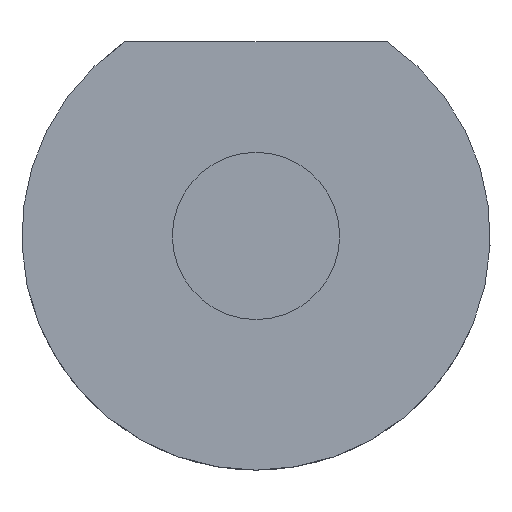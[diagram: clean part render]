
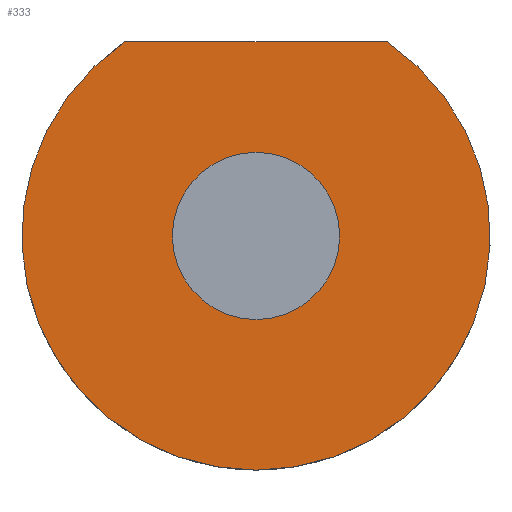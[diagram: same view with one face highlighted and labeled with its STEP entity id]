
A CAD part, front view. The second image highlights one B-rep face of the part: STEP entity #333.
In plain terms, the highlighted planar face has unit normal (0, -1, 0).
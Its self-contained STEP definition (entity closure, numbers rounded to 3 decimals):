
#42 = VERTEX_POINT('',#43);
#43 = CARTESIAN_POINT('',(1.96,-34.9,2.9));
#50 = CYLINDRICAL_SURFACE('',#51,3.5);
#51 = AXIS2_PLACEMENT_3D('',#52,#53,#54);
#52 = CARTESIAN_POINT('',(0.,-6.98,0.));
#53 = DIRECTION('',(0.,-1.,0.));
#54 = DIRECTION('',(1.,0.,0.));
#61 = PLANE('',#62);
#62 = AXIS2_PLACEMENT_3D('',#63,#64,#65);
#63 = CARTESIAN_POINT('',(-5.,-35.9,2.9));
#64 = DIRECTION('',(0.,0.,1.));
#65 = DIRECTION('',(1.,0.,-0.));
#72 = EDGE_CURVE('',#42,#73,#75,.T.);
#73 = VERTEX_POINT('',#74);
#74 = CARTESIAN_POINT('',(-1.96,-34.9,2.9));
#75 = SURFACE_CURVE('',#76,(#81,#88),.PCURVE_S1.);
#76 = CIRCLE('',#77,3.5);
#77 = AXIS2_PLACEMENT_3D('',#78,#79,#80);
#78 = CARTESIAN_POINT('',(0.,-34.9,0.));
#79 = DIRECTION('',(0.,1.,0.));
#80 = DIRECTION('',(0.56,-0.,0.829));
#81 = PCURVE('',#50,#82);
#82 = DEFINITIONAL_REPRESENTATION('',(#83),#87);
#83 = LINE('',#84,#85);
#84 = CARTESIAN_POINT('',(7.26,27.92));
#85 = VECTOR('',#86,1.);
#86 = DIRECTION('',(-1.,-0.));
#87 = ( GEOMETRIC_REPRESENTATION_CONTEXT(2) 
PARAMETRIC_REPRESENTATION_CONTEXT() REPRESENTATION_CONTEXT('2D SPACE',''
  ) );
#88 = PCURVE('',#89,#94);
#89 = PLANE('',#90);
#90 = AXIS2_PLACEMENT_3D('',#91,#92,#93);
#91 = CARTESIAN_POINT('',(0.,-34.9,0.));
#92 = DIRECTION('',(0.,-1.,0.));
#93 = DIRECTION('',(1.,0.,0.));
#94 = DEFINITIONAL_REPRESENTATION('',(#95),#103);
#95 = ( BOUNDED_CURVE() B_SPLINE_CURVE(2,(#96,#97,#98,#99,#100,#101,#102
),.UNSPECIFIED.,.T.,.F.) B_SPLINE_CURVE_WITH_KNOTS((1,2,2,2,2,1),(
    -2.094,0.,2.094,4.189,6.283,
8.378),.UNSPECIFIED.) CURVE() GEOMETRIC_REPRESENTATION_ITEM() 
RATIONAL_B_SPLINE_CURVE((1.,0.5,1.,0.5,1.,0.5,1.)) REPRESENTATION_ITEM(
  '') );
#96 = CARTESIAN_POINT('',(1.96,2.9));
#97 = CARTESIAN_POINT('',(6.983,-0.494));
#98 = CARTESIAN_POINT('',(1.532,-3.147));
#99 = CARTESIAN_POINT('',(-3.919,-5.8));
#100 = CARTESIAN_POINT('',(-3.491,0.247));
#101 = CARTESIAN_POINT('',(-3.063,6.294));
#102 = CARTESIAN_POINT('',(1.96,2.9));
#103 = ( GEOMETRIC_REPRESENTATION_CONTEXT(2) 
PARAMETRIC_REPRESENTATION_CONTEXT() REPRESENTATION_CONTEXT('2D SPACE',''
  ) );
#184 = EDGE_CURVE('',#42,#73,#185,.T.);
#185 = SURFACE_CURVE('',#186,(#190,#196),.PCURVE_S1.);
#186 = LINE('',#187,#188);
#187 = CARTESIAN_POINT('',(-2.5,-34.9,2.9));
#188 = VECTOR('',#189,1.);
#189 = DIRECTION('',(-1.,0.,0.));
#190 = PCURVE('',#61,#191);
#191 = DEFINITIONAL_REPRESENTATION('',(#192),#195);
#192 = B_SPLINE_CURVE_WITH_KNOTS('',1,(#193,#194),.UNSPECIFIED.,.F.,.F.,
  (2,2),(-6.,1.),.PIECEWISE_BEZIER_KNOTS.);
#193 = CARTESIAN_POINT('',(8.5,1.));
#194 = CARTESIAN_POINT('',(1.5,1.));
#195 = ( GEOMETRIC_REPRESENTATION_CONTEXT(2) 
PARAMETRIC_REPRESENTATION_CONTEXT() REPRESENTATION_CONTEXT('2D SPACE',''
  ) );
#196 = PCURVE('',#89,#197);
#197 = DEFINITIONAL_REPRESENTATION('',(#198),#201);
#198 = B_SPLINE_CURVE_WITH_KNOTS('',1,(#199,#200),.UNSPECIFIED.,.F.,.F.,
  (2,2),(-6.,1.),.PIECEWISE_BEZIER_KNOTS.);
#199 = CARTESIAN_POINT('',(3.5,2.9));
#200 = CARTESIAN_POINT('',(-3.5,2.9));
#201 = ( GEOMETRIC_REPRESENTATION_CONTEXT(2) 
PARAMETRIC_REPRESENTATION_CONTEXT() REPRESENTATION_CONTEXT('2D SPACE',''
  ) );
#333 = ADVANCED_FACE('',(#334,#338),#89,.T.);
#334 = FACE_BOUND('',#335,.T.);
#335 = EDGE_LOOP('',(#336,#337));
#336 = ORIENTED_EDGE('',*,*,#184,.T.);
#337 = ORIENTED_EDGE('',*,*,#72,.F.);
#338 = FACE_BOUND('',#339,.T.);
#339 = EDGE_LOOP('',(#340));
#340 = ORIENTED_EDGE('',*,*,#341,.F.);
#341 = EDGE_CURVE('',#342,#342,#344,.T.);
#342 = VERTEX_POINT('',#343);
#343 = CARTESIAN_POINT('',(1.25,-34.9,0.));
#344 = SURFACE_CURVE('',#345,(#350,#357),.PCURVE_S1.);
#345 = CIRCLE('',#346,1.25);
#346 = AXIS2_PLACEMENT_3D('',#347,#348,#349);
#347 = CARTESIAN_POINT('',(0.,-34.9,0.));
#348 = DIRECTION('',(0.,-1.,0.));
#349 = DIRECTION('',(1.,0.,0.));
#350 = PCURVE('',#89,#351);
#351 = DEFINITIONAL_REPRESENTATION('',(#352),#356);
#352 = CIRCLE('',#353,1.25);
#353 = AXIS2_PLACEMENT_2D('',#354,#355);
#354 = CARTESIAN_POINT('',(0.,0.));
#355 = DIRECTION('',(1.,0.));
#356 = ( GEOMETRIC_REPRESENTATION_CONTEXT(2) 
PARAMETRIC_REPRESENTATION_CONTEXT() REPRESENTATION_CONTEXT('2D SPACE',''
  ) );
#357 = PCURVE('',#358,#363);
#358 = CYLINDRICAL_SURFACE('',#359,1.25);
#359 = AXIS2_PLACEMENT_3D('',#360,#361,#362);
#360 = CARTESIAN_POINT('',(0.,-27.9,0.));
#361 = DIRECTION('',(0.,-1.,0.));
#362 = DIRECTION('',(1.,0.,0.));
#363 = DEFINITIONAL_REPRESENTATION('',(#364),#368);
#364 = LINE('',#365,#366);
#365 = CARTESIAN_POINT('',(0.,7.));
#366 = VECTOR('',#367,1.);
#367 = DIRECTION('',(1.,0.));
#368 = ( GEOMETRIC_REPRESENTATION_CONTEXT(2) 
PARAMETRIC_REPRESENTATION_CONTEXT() REPRESENTATION_CONTEXT('2D SPACE',''
  ) );
